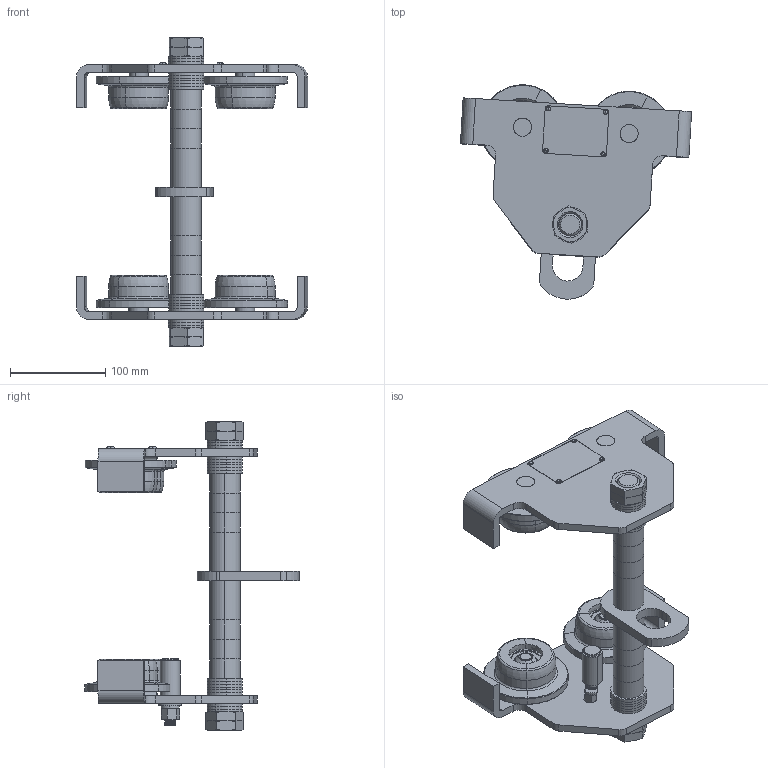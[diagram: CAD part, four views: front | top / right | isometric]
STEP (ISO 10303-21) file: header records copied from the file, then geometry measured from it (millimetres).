
FILE_DESCRIPTION (( 'STEP AP203' ), '1' );
FILE_NAME ('GCT619-1T軞蚾芞.STEP', '2023-02-27T01:58:37', ( '' ), ( '' ), 'SwSTEP 2.0', 'SolidWorks 2018', '' );
FILE_SCHEMA (( 'CONFIG_CONTROL_DESIGN' ));
Length unit declared in the file: millimetre
Products named in the file (25): GCT619-1-010垫圈; GB893．2-86孔用弹性挡圈B型35; GCT619-1-006傻境褽杶; GCT619-1T軞蚾芞; GB／T97．1-2002平垫圈A级12×2．5; 酘Х啣郪璃; GCL619-1TM霧齪; GCT619-1-011植雄陬謫; GCT619-1-007裂遠; 衵Х啣郪璃; GCT619-1-009粣創裔; GCT619-1-001右墙板; GB／T41-20001型六角螺母C级M12; GCT619-1-008陬謫粣; GB／T276-94深沟球轴承6202-2Z; GCT619-1-004平衡套; GB／T6172．1-2000六角薄螺母A级和B级M24; GB894．1-86轴用弹性挡圈A型15; GB／T867-1986半圆头铆钉2．5×5; GCT619-1-003平衡轴; GCT619-1-012酗境褽杶; GCT619-1-002左墙板; 植雄陬謫郪璃; GCT619-1-005挂梁（轨宽203mm）; GB／T859-1987轻型弹簧垫圈(装配)12×2．5
Assembly tree (62 placements, depth 4):
  GCT619-1T軞蚾芞
    衵Х啣郪璃
      GCT619-1-001右墙板
      GCT619-1-008陬謫粣  x2
      植雄陬謫郪璃  x2
        GCT619-1-011植雄陬謫
        GB／T276-94深沟球轴承6202-2Z
        GCT619-1-009粣創裔
        GB893．2-86孔用弹性挡圈B型35
      GB894．1-86轴用弹性挡圈A型15  x2
    酘Х啣郪璃
      GCT619-1-002左墙板
      GCT619-1-008陬謫粣  x2
      GB894．1-86轴用弹性挡圈A型15  x2
      GCT619-1-003平衡轴
      GCT619-1-004平衡套
      GB／T97．1-2002平垫圈A级12×2．5
      GB／T859-1987轻型弹簧垫圈(装配)12×2．5
      GB／T41-20001型六角螺母C级M12
      植雄陬謫郪璃  x2
        GCT619-1-011植雄陬謫
        GB／T276-94深沟球轴承6202-2Z
        GCT619-1-009粣創裔
        GB893．2-86孔用弹性挡圈B型35
    GCT619-1-005挂梁（轨宽203mm）
    GCT619-1-007裂遠
    GCT619-1-012酗境褽杶  x2
    GCT619-1-006傻境褽杶  x6
    GCT619-1-010垫圈  x18
    GB／T6172．1-2000六角薄螺母A级和B级M24  x4
    GCL619-1TM霧齪
    GB／T867-1986半圆头铆钉2．5×5  x4
Bounding box: 242.46 x 224.52 x 323 mm (x, y, z)
Volume: 1223472.3 mm3; surface area: 413450.6 mm2
Topology: 68 solids, 68 shells, 1664 faces, 4336 edges, 2781 vertices
Faces by surface type: cylinder 586, plane 357, sphere 264, cone 254, torus 192, bspline 11
Entity records: 36864 total; most frequent: CARTESIAN_POINT 17813, ORIENTED_EDGE 3356, DIRECTION 3191, EDGE_CURVE 1678, AXIS2_PLACEMENT_3D 1331, VERTEX_POINT 1082, EDGE_LOOP 722, FACE_OUTER_BOUND 638
